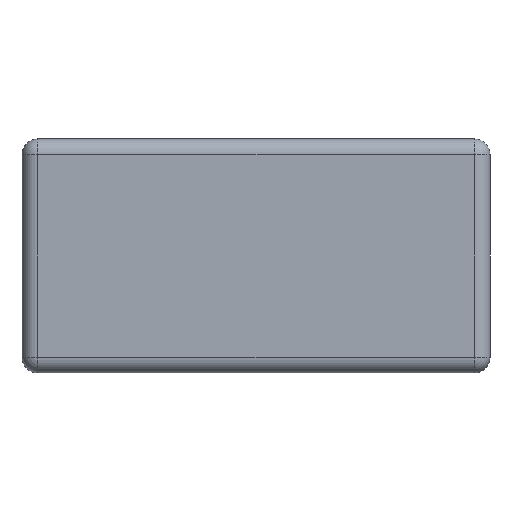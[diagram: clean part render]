
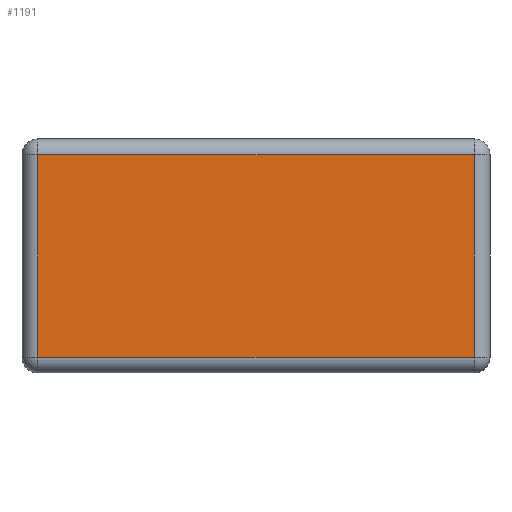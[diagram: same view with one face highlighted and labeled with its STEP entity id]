
A CAD part, front view. The second image highlights one B-rep face of the part: STEP entity #1191.
In plain terms, the highlighted planar face has unit normal (0, -1, 0).
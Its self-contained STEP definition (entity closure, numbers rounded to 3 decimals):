
#50 = CARTESIAN_POINT ( 'NONE',  ( 0., 0., -0.188 ) ) ;
#60 = CARTESIAN_POINT ( 'NONE',  ( 29.448, 0., 0. ) ) ;
#86 = FACE_OUTER_BOUND ( 'NONE', #1344, .T. ) ;
#170 = CARTESIAN_POINT ( 'NONE',  ( -26.552, 0., 25.812 ) ) ;
#231 = CARTESIAN_POINT ( 'NONE',  ( -26.552, 0., 0. ) ) ;
#244 = VERTEX_POINT ( 'NONE', #1196 ) ;
#406 = DIRECTION ( 'NONE',  ( 0., 0., -1. ) ) ;
#407 = CARTESIAN_POINT ( 'NONE',  ( 29.448, 0., 25.812 ) ) ;
#445 = ORIENTED_EDGE ( 'NONE', *, *, #951, .T. ) ;
#519 = ORIENTED_EDGE ( 'NONE', *, *, #2124, .T. ) ;
#530 = VECTOR ( 'NONE', #581, 1000. ) ;
#581 = DIRECTION ( 'NONE',  ( 0., 0., 1. ) ) ;
#594 = VERTEX_POINT ( 'NONE', #1483 ) ;
#696 = DIRECTION ( 'NONE',  ( 0., 1., 0. ) ) ;
#783 = ORIENTED_EDGE ( 'NONE', *, *, #1027, .T. ) ;
#857 = CARTESIAN_POINT ( 'NONE',  ( 0., 0., 0. ) ) ;
#910 = DIRECTION ( 'NONE',  ( -1., 0., 0. ) ) ;
#951 = EDGE_CURVE ( 'NONE', #1784, #1171, #1031, .T. ) ;
#995 = AXIS2_PLACEMENT_3D ( 'NONE', #857, #696, #1880 ) ;
#1027 = EDGE_CURVE ( 'NONE', #594, #244, #1765, .T. ) ;
#1031 = LINE ( 'NONE', #1934, #1878 ) ;
#1043 = LINE ( 'NONE', #60, #530 ) ;
#1073 = DIRECTION ( 'NONE',  ( 1., 0., 0. ) ) ;
#1171 = VERTEX_POINT ( 'NONE', #170 ) ;
#1191 = ADVANCED_FACE ( 'NONE', ( #86 ), #2039, .F. ) ;
#1196 = CARTESIAN_POINT ( 'NONE',  ( 29.448, 0., -0.188 ) ) ;
#1223 = ORIENTED_EDGE ( 'NONE', *, *, #2083, .T. ) ;
#1264 = VECTOR ( 'NONE', #1073, 1000. ) ;
#1344 = EDGE_LOOP ( 'NONE', ( #519, #445, #1223, #783 ) ) ;
#1483 = CARTESIAN_POINT ( 'NONE',  ( -26.552, 0., -0.188 ) ) ;
#1593 = VECTOR ( 'NONE', #406, 1000. ) ;
#1765 = LINE ( 'NONE', #50, #1264 ) ;
#1784 = VERTEX_POINT ( 'NONE', #407 ) ;
#1878 = VECTOR ( 'NONE', #910, 1000. ) ;
#1880 = DIRECTION ( 'NONE',  ( 0., 0., 1. ) ) ;
#1934 = CARTESIAN_POINT ( 'NONE',  ( 0., 0., 25.812 ) ) ;
#1944 = LINE ( 'NONE', #231, #1593 ) ;
#2039 = PLANE ( 'NONE',  #995 ) ;
#2083 = EDGE_CURVE ( 'NONE', #1171, #594, #1944, .T. ) ;
#2124 = EDGE_CURVE ( 'NONE', #244, #1784, #1043, .T. ) ;
